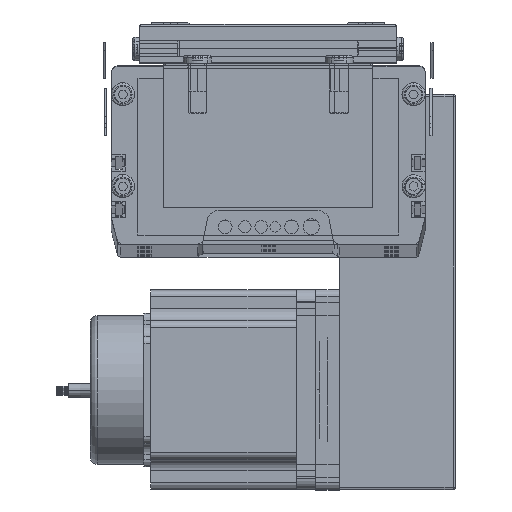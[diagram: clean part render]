
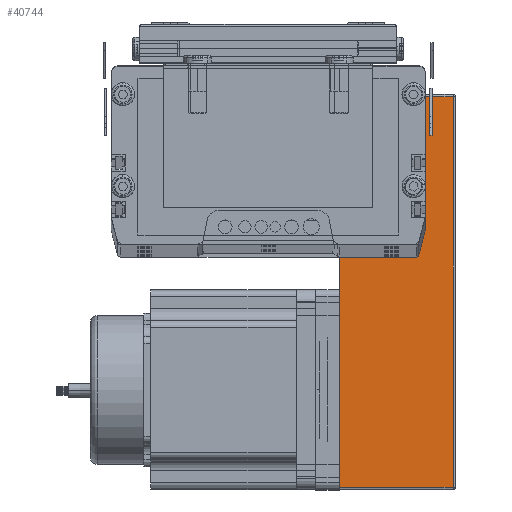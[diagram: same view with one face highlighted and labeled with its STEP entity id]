
A CAD part, top view. The second image highlights one B-rep face of the part: STEP entity #40744.
In plain terms, the highlighted planar face has unit normal (0, 0, 1) as drawn and (0, 1, 0) by its records, which use the part's own axes.
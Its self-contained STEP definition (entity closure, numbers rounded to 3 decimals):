
#40260 = VERTEX_POINT ( 'NONE', #112232 ) ;
#40632 = VERTEX_POINT ( 'NONE', #101985 ) ;
#40690 = EDGE_CURVE ( 'NONE', #40632, #40734, #102283, .T. ) ;
#40702 = VERTEX_POINT ( 'NONE', #102273 ) ;
#40724 = EDGE_LOOP ( 'NONE', ( #41148, #40741, #40754, #40753, #40746, #41207, #41206, #41053, #41052 ) ) ;
#40734 = VERTEX_POINT ( 'NONE', #102097 ) ;
#40736 = EDGE_CURVE ( 'NONE', #40737, #40260, #102375, .T. ) ;
#40737 = VERTEX_POINT ( 'NONE', #102197 ) ;
#40741 = ORIENTED_EDGE ( 'NONE', *, *, #40736, .F. ) ;
#40744 = ADVANCED_FACE ( 'NONE', ( #102095 ), #102195, .F. ) ;
#40746 = ORIENTED_EDGE ( 'NONE', *, *, #40929, .F. ) ;
#40753 = ORIENTED_EDGE ( 'NONE', *, *, #40690, .F. ) ;
#40754 = ORIENTED_EDGE ( 'NONE', *, *, #40933, .F. ) ;
#40811 = EDGE_CURVE ( 'NONE', #40702, #40260, #102691, .T. ) ;
#40906 = VERTEX_POINT ( 'NONE', #103252 ) ;
#40928 = EDGE_CURVE ( 'NONE', #41050, #40702, #103106, .T. ) ;
#40929 = EDGE_CURVE ( 'NONE', #41054, #40632, #103086, .T. ) ;
#40933 = EDGE_CURVE ( 'NONE', #40734, #40737, #103066, .T. ) ;
#41047 = EDGE_CURVE ( 'NONE', #41114, #40906, #102519, .T. ) ;
#41050 = VERTEX_POINT ( 'NONE', #103776 ) ;
#41052 = ORIENTED_EDGE ( 'NONE', *, *, #40928, .T. ) ;
#41053 = ORIENTED_EDGE ( 'NONE', *, *, #41115, .T. ) ;
#41054 = VERTEX_POINT ( 'NONE', #104138 ) ;
#41114 = VERTEX_POINT ( 'NONE', #104391 ) ;
#41115 = EDGE_CURVE ( 'NONE', #40906, #41050, #104430, .T. ) ;
#41148 = ORIENTED_EDGE ( 'NONE', *, *, #40811, .T. ) ;
#41199 = EDGE_CURVE ( 'NONE', #41114, #41054, #104872, .T. ) ;
#41206 = ORIENTED_EDGE ( 'NONE', *, *, #41047, .T. ) ;
#41207 = ORIENTED_EDGE ( 'NONE', *, *, #41199, .F. ) ;
#101985 = CARTESIAN_POINT ( 'NONE',  ( 10.902, 70., 0. ) ) ;
#102094 = AXIS2_PLACEMENT_3D ( 'NONE', #102374, #102139, #102137 ) ;
#102095 = FACE_OUTER_BOUND ( 'NONE', #40724, .T. ) ;
#102097 = CARTESIAN_POINT ( 'NONE',  ( 74.961, 70., 0. ) ) ;
#102137 = DIRECTION ( 'NONE',  ( 0., 0., -1. ) ) ;
#102139 = DIRECTION ( 'NONE',  ( 0., -1., 0. ) ) ;
#102179 = DIRECTION ( 'NONE',  ( 1., 0., 0. ) ) ;
#102181 = VECTOR ( 'NONE', #102179, 1000. ) ;
#102183 = CARTESIAN_POINT ( 'NONE',  ( 0., 70., 0. ) ) ;
#102195 = PLANE ( 'NONE',  #102094 ) ;
#102197 = CARTESIAN_POINT ( 'NONE',  ( 80.439, 70., 0. ) ) ;
#102273 = CARTESIAN_POINT ( 'NONE',  ( 169., 70., 0. ) ) ;
#102278 = DIRECTION ( 'NONE',  ( 1., 0., 0. ) ) ;
#102279 = VECTOR ( 'NONE', #102278, 1000. ) ;
#102281 = CARTESIAN_POINT ( 'NONE',  ( 0., 70., 0. ) ) ;
#102283 = LINE ( 'NONE', #102281, #102279 ) ;
#102374 = CARTESIAN_POINT ( 'NONE',  ( 0., 70., 50. ) ) ;
#102375 = LINE ( 'NONE', #102183, #102181 ) ;
#102519 = LINE ( 'NONE', #102533, #102531 ) ;
#102529 = DIRECTION ( 'NONE',  ( 0., 0., 1. ) ) ;
#102531 = VECTOR ( 'NONE', #102529, 1000. ) ;
#102533 = CARTESIAN_POINT ( 'NONE',  ( 1., 70., 50. ) ) ;
#102664 = DIRECTION ( 'NONE',  ( -1., 0., 0. ) ) ;
#102688 = VECTOR ( 'NONE', #102664, 1000. ) ;
#102689 = CARTESIAN_POINT ( 'NONE',  ( 0., 70., 0. ) ) ;
#102691 = LINE ( 'NONE', #102689, #102688 ) ;
#103064 = CARTESIAN_POINT ( 'NONE',  ( 0., 70., 0. ) ) ;
#103066 = LINE ( 'NONE', #103064, #103146 ) ;
#103080 = DIRECTION ( 'NONE',  ( 1., 0., 0. ) ) ;
#103081 = VECTOR ( 'NONE', #103080, 1000. ) ;
#103083 = CARTESIAN_POINT ( 'NONE',  ( 0., 70., 0. ) ) ;
#103086 = LINE ( 'NONE', #103083, #103081 ) ;
#103087 = DIRECTION ( 'NONE',  ( 0., 0., -1. ) ) ;
#103088 = VECTOR ( 'NONE', #103087, 1000. ) ;
#103104 = CARTESIAN_POINT ( 'NONE',  ( 169., 70., 50. ) ) ;
#103106 = LINE ( 'NONE', #103104, #103088 ) ;
#103145 = DIRECTION ( 'NONE',  ( 1., 0., 0. ) ) ;
#103146 = VECTOR ( 'NONE', #103145, 1000. ) ;
#103252 = CARTESIAN_POINT ( 'NONE',  ( 1., 70., 49. ) ) ;
#103776 = CARTESIAN_POINT ( 'NONE',  ( 169., 70., 49. ) ) ;
#104138 = CARTESIAN_POINT ( 'NONE',  ( 5.418, 70., 0. ) ) ;
#104391 = CARTESIAN_POINT ( 'NONE',  ( 1., 70., 0. ) ) ;
#104425 = DIRECTION ( 'NONE',  ( 1., 0., 0. ) ) ;
#104426 = VECTOR ( 'NONE', #104425, 1000. ) ;
#104428 = CARTESIAN_POINT ( 'NONE',  ( 0., 70., 49. ) ) ;
#104430 = LINE ( 'NONE', #104428, #104426 ) ;
#104793 = DIRECTION ( 'NONE',  ( 1., 0., 0. ) ) ;
#104827 = VECTOR ( 'NONE', #104793, 1000. ) ;
#104839 = CARTESIAN_POINT ( 'NONE',  ( 0., 70., 0. ) ) ;
#104872 = LINE ( 'NONE', #104839, #104827 ) ;
#112232 = CARTESIAN_POINT ( 'NONE',  ( 85.9, 70., 0. ) ) ;
